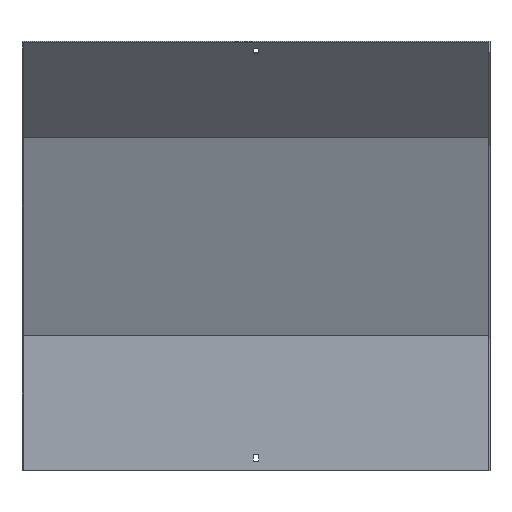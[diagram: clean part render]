
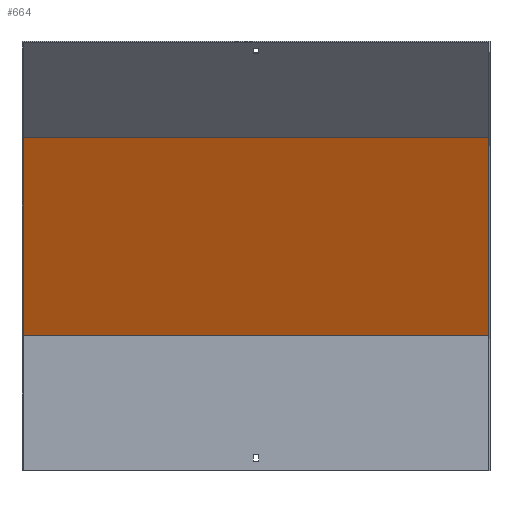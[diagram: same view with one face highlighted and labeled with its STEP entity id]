
A CAD part, front view. The second image highlights one B-rep face of the part: STEP entity #664.
In plain terms, the highlighted planar face has unit normal (0, -0.924, -0.383).
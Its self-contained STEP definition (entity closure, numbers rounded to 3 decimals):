
#4 = CARTESIAN_POINT ( 'NONE',  ( 300., -87.258, 429.003 ) ) ;
#32 = ORIENTED_EDGE ( 'NONE', *, *, #733, .F. ) ;
#43 = ORIENTED_EDGE ( 'NONE', *, *, #234, .T. ) ;
#45 = CARTESIAN_POINT ( 'NONE',  ( -300., 77.196, 31.976 ) ) ;
#62 = DIRECTION ( 'NONE',  ( -1., 0., 0. ) ) ;
#80 = CARTESIAN_POINT ( 'NONE',  ( -300., 18.5, 173.68 ) ) ;
#180 = VECTOR ( 'NONE', #261, 1000. ) ;
#193 = VERTEX_POINT ( 'NONE', #786 ) ;
#219 = CARTESIAN_POINT ( 'NONE',  ( 301.5, 17.092, 177.08 ) ) ;
#222 = DIRECTION ( 'NONE',  ( 0., -0.383, 0.924 ) ) ;
#234 = EDGE_CURVE ( 'NONE', #438, #267, #338, .T. ) ;
#261 = DIRECTION ( 'NONE',  ( 0., -0.383, 0.924 ) ) ;
#267 = VERTEX_POINT ( 'NONE', #609 ) ;
#286 = DIRECTION ( 'NONE',  ( 0., 0.383, -0.924 ) ) ;
#302 = DIRECTION ( 'NONE',  ( 0., -0.924, -0.383 ) ) ;
#303 = VERTEX_POINT ( 'NONE', #80 ) ;
#332 = EDGE_CURVE ( 'NONE', #193, #438, #593, .T. ) ;
#338 = LINE ( 'NONE', #599, #528 ) ;
#352 = FACE_OUTER_BOUND ( 'NONE', #408, .T. ) ;
#378 = ORIENTED_EDGE ( 'NONE', *, *, #332, .T. ) ;
#408 = EDGE_LOOP ( 'NONE', ( #622, #32, #378, #43 ) ) ;
#438 = VERTEX_POINT ( 'NONE', #4 ) ;
#450 = AXIS2_PLACEMENT_3D ( 'NONE', #219, #302, #286 ) ;
#471 = EDGE_CURVE ( 'NONE', #303, #267, #708, .T. ) ;
#528 = VECTOR ( 'NONE', #742, 1000. ) ;
#593 = LINE ( 'NONE', #854, #180 ) ;
#599 = CARTESIAN_POINT ( 'NONE',  ( 301.5, -87.258, 429.003 ) ) ;
#609 = CARTESIAN_POINT ( 'NONE',  ( -300., -87.258, 429.003 ) ) ;
#611 = PLANE ( 'NONE',  #450 ) ;
#622 = ORIENTED_EDGE ( 'NONE', *, *, #471, .F. ) ;
#638 = VECTOR ( 'NONE', #62, 1000. ) ;
#664 = ADVANCED_FACE ( 'NONE', ( #352 ), #611, .T. ) ;
#666 = LINE ( 'NONE', #737, #638 ) ;
#708 = LINE ( 'NONE', #45, #832 ) ;
#733 = EDGE_CURVE ( 'NONE', #193, #303, #666, .T. ) ;
#737 = CARTESIAN_POINT ( 'NONE',  ( 301.5, 18.5, 173.68 ) ) ;
#742 = DIRECTION ( 'NONE',  ( -1., 0., 0. ) ) ;
#786 = CARTESIAN_POINT ( 'NONE',  ( 300., 18.5, 173.68 ) ) ;
#832 = VECTOR ( 'NONE', #222, 1000. ) ;
#854 = CARTESIAN_POINT ( 'NONE',  ( 300., 77.196, 31.976 ) ) ;
